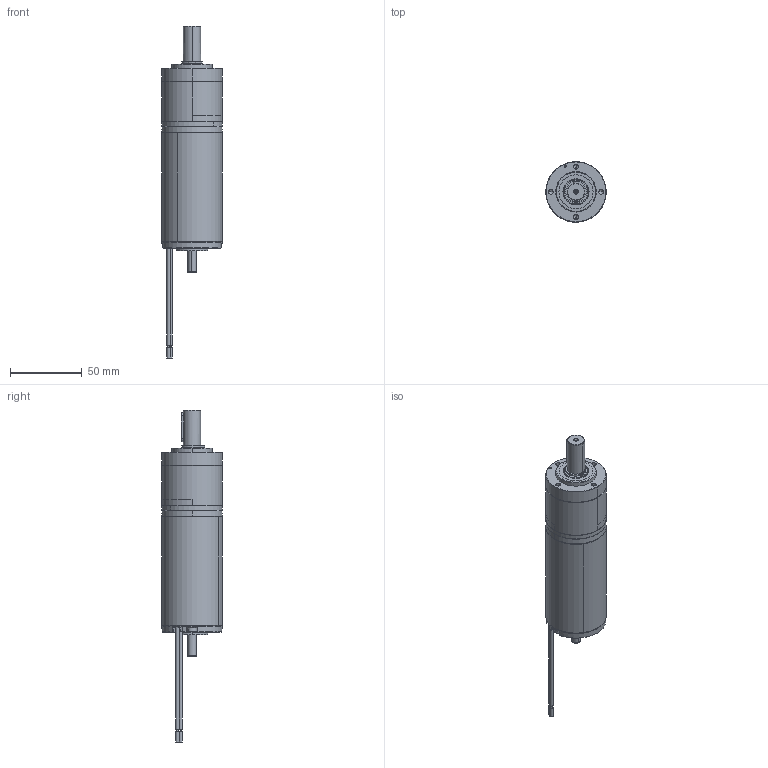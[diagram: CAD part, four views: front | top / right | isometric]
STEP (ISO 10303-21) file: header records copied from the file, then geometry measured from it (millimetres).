
FILE_DESCRIPTION (( 'STEP AP214' ), '1' );
FILE_NAME ('BRx42-40-PGx42 (1 Stage).STEP', '2025-05-13T06:14:42', ( '' ), ( '' ), 'SwSTEP 2.0', 'SolidWorks 2023', '' );
FILE_SCHEMA (( 'AUTOMOTIVE_DESIGN' ));
Length unit declared in the file: millimetre
Products named in the file (1): BRx42-40-PGx42 (1 Stage)
Bounding box: 42 x 42 x 231.35 mm (x, y, z)
Volume: 94737.8 mm3; surface area: 53096.8 mm2
Topology: 17 solids, 17 shells, 1574 faces, 3781 edges, 2352 vertices
Faces by surface type: plane 519, cylinder 313, cone 310, torus 222, bspline 186, sphere 24
Entity records: 73109 total; most frequent: CARTESIAN_POINT 19862, ORIENTED_EDGE 7522, DIRECTION 7355, EDGE_CURVE 3761, AXIS2_PLACEMENT_3D 2991, VERTEX_POINT 2352, EDGE_LOOP 1747, CIRCLE 1602
